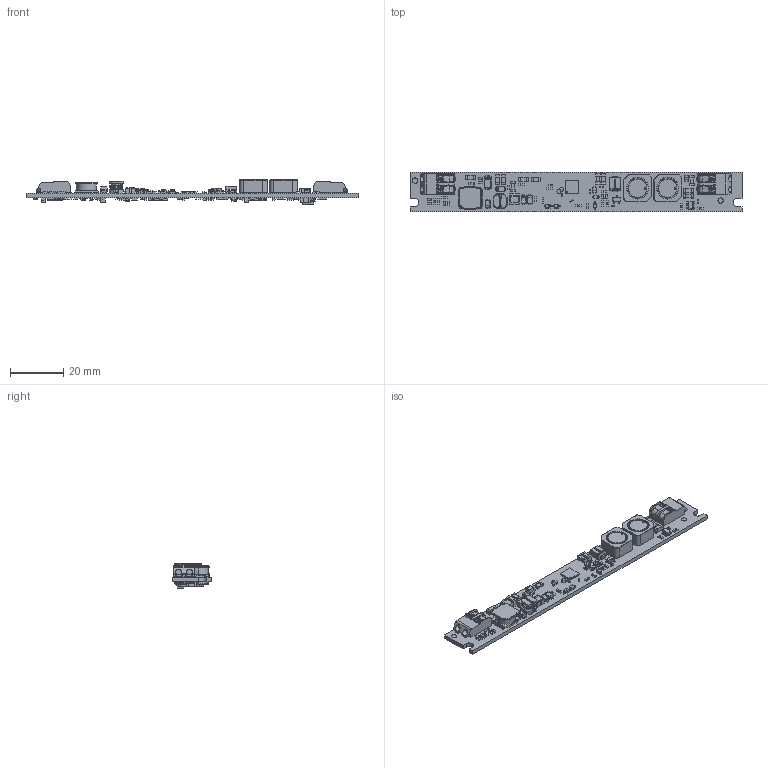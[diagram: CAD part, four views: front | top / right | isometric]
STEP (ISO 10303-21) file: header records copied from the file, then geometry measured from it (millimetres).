
FILE_DESCRIPTION((''),'2;1');
FILE_NAME('15010541Z_DATAMEC_125X14-8_DIM','2021-04-21T13:42:12',('Juergen.Hrach'),(''),'CREO PARAMETRIC BY PTC INC, 2019164','CREO PARAMETRIC BY PTC INC, 2019164','');
FILE_SCHEMA(('CONFIG_CONTROL_DESIGN'));
Products named in the file (1): 15010541Z_DATAMEC_125X14-8_DIM
Bounding box: 125 x 14.8 x 9.11 mm (x, y, z)
Volume: 4736.7 mm3; surface area: 10019.4 mm2
Topology: 181 solids, 234 shells, 6028 faces, 15038 edges, 9284 vertices
Faces by surface type: bspline 4280, revolution 1672, extrusion 76
Entity records: 243381 total; most frequent: CARTESIAN_POINT 116203, ORIENTED_EDGE 29075, DIRECTION 17250, EDGE_CURVE 14719, VECTOR 11568, LINE 11492, VERTEX_POINT 9308, EDGE_LOOP 6297
